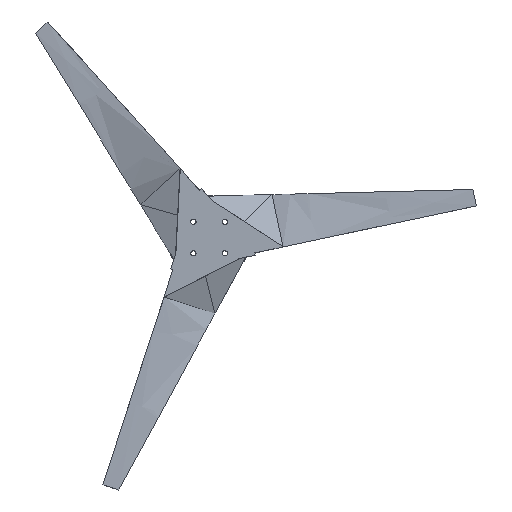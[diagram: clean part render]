
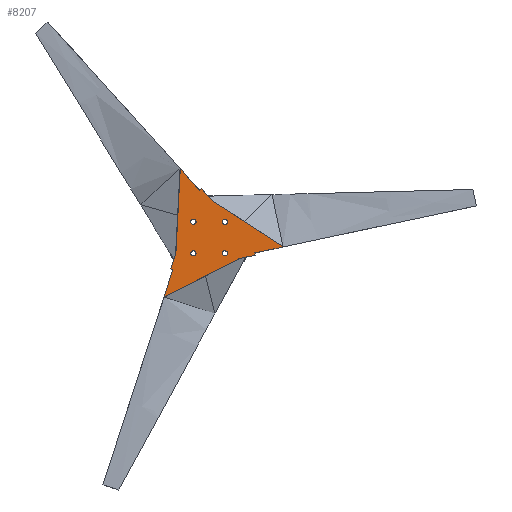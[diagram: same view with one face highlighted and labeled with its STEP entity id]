
A CAD part, top view. The second image highlights one B-rep face of the part: STEP entity #8207.
In plain terms, the highlighted planar face has unit normal (0, 0, 1).
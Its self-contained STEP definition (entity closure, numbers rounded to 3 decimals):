
#8012=CARTESIAN_POINT('Vertex',(13.422,-47.153,0.)) ;
#8026=CARTESIAN_POINT('Vertex',(25.422,-47.153,0.)) ;
#8029=CARTESIAN_POINT('Axis2P3D Location',(19.422,-47.153,0.)) ;
#8041=CARTESIAN_POINT('Axis2P3D Location',(0.,0.,0.)) ;
#8046=CARTESIAN_POINT('Line Origine',(63.255,-74.06,0.)) ;
#8050=CARTESIAN_POINT('Vertex',(81.264,-77.482,0.)) ;
#8052=CARTESIAN_POINT('Vertex',(45.247,-70.638,0.)) ;
#8055=CARTESIAN_POINT('Line Origine',(81.731,-75.026,0.)) ;
#8059=CARTESIAN_POINT('Vertex',(82.198,-72.57,0.)) ;
#8062=CARTESIAN_POINT('Line Origine',(114.617,-78.731,0.)) ;
#8066=CARTESIAN_POINT('Vertex',(147.037,-84.892,0.)) ;
#8069=CARTESIAN_POINT('Line Origine',(92.794,-5.194,0.)) ;
#8073=CARTESIAN_POINT('Vertex',(38.551,74.503,0.)) ;
#8076=CARTESIAN_POINT('Line Origine',(32.51,91.811,0.)) ;
#8080=CARTESIAN_POINT('Vertex',(26.469,109.118,0.)) ;
#8083=CARTESIAN_POINT('Line Origine',(24.109,108.294,0.)) ;
#8087=CARTESIAN_POINT('Vertex',(21.749,107.47,0.)) ;
#8090=CARTESIAN_POINT('Line Origine',(10.874,138.627,0.)) ;
#8094=CARTESIAN_POINT('Vertex',(0.,169.784,0.)) ;
#8097=CARTESIAN_POINT('Line Origine',(-41.899,82.959,0.)) ;
#8101=CARTESIAN_POINT('Vertex',(-83.797,-3.866,0.)) ;
#8104=CARTESIAN_POINT('Line Origine',(-95.765,-17.751,0.)) ;
#8108=CARTESIAN_POINT('Vertex',(-107.734,-31.636,0.)) ;
#8111=CARTESIAN_POINT('Line Origine',(-105.84,-33.268,0.)) ;
#8115=CARTESIAN_POINT('Vertex',(-103.946,-34.9,0.)) ;
#8118=CARTESIAN_POINT('Line Origine',(-125.492,-59.896,0.)) ;
#8122=CARTESIAN_POINT('Vertex',(-147.037,-84.892,0.)) ;
#8125=CARTESIAN_POINT('Line Origine',(-50.895,-77.765,0.)) ;
#8144=CARTESIAN_POINT('Axis2P3D Location',(19.422,-47.153,0.)) ;
#8153=CARTESIAN_POINT('Axis2P3D Location',(47.277,19.241,0.)) ;
#8157=CARTESIAN_POINT('Vertex',(41.277,19.241,0.)) ;
#8159=CARTESIAN_POINT('Vertex',(53.277,19.241,0.)) ;
#8162=CARTESIAN_POINT('Axis2P3D Location',(47.277,19.241,0.)) ;
#8171=CARTESIAN_POINT('Axis2P3D Location',(-19.117,47.095,0.)) ;
#8175=CARTESIAN_POINT('Vertex',(-25.117,47.095,0.)) ;
#8177=CARTESIAN_POINT('Vertex',(-13.117,47.095,0.)) ;
#8180=CARTESIAN_POINT('Axis2P3D Location',(-19.117,47.095,0.)) ;
#8189=CARTESIAN_POINT('Axis2P3D Location',(-46.972,-19.298,0.)) ;
#8193=CARTESIAN_POINT('Vertex',(-52.972,-19.298,0.)) ;
#8195=CARTESIAN_POINT('Vertex',(-40.972,-19.298,0.)) ;
#8198=CARTESIAN_POINT('Axis2P3D Location',(-46.972,-19.298,0.)) ;
#8048=VECTOR('Line Direction',#8047,1.) ;
#8057=VECTOR('Line Direction',#8056,1.) ;
#8064=VECTOR('Line Direction',#8063,1.) ;
#8071=VECTOR('Line Direction',#8070,1.) ;
#8078=VECTOR('Line Direction',#8077,1.) ;
#8085=VECTOR('Line Direction',#8084,1.) ;
#8092=VECTOR('Line Direction',#8091,1.) ;
#8099=VECTOR('Line Direction',#8098,1.) ;
#8106=VECTOR('Line Direction',#8105,1.) ;
#8113=VECTOR('Line Direction',#8112,1.) ;
#8120=VECTOR('Line Direction',#8119,1.) ;
#8127=VECTOR('Line Direction',#8126,1.) ;
#8030=DIRECTION('Axis2P3D Direction',(0.,0.,-1.)) ;
#8042=DIRECTION('Axis2P3D Direction',(0.,-0.,1.)) ;
#8043=DIRECTION('Axis2P3D XDirection',(0.,1.,0.)) ;
#8047=DIRECTION('Vector Direction',(-0.982,0.187,0.)) ;
#8056=DIRECTION('Vector Direction',(-0.187,-0.982,0.)) ;
#8063=DIRECTION('Vector Direction',(-0.982,0.187,0.)) ;
#8070=DIRECTION('Vector Direction',(0.563,-0.827,0.)) ;
#8077=DIRECTION('Vector Direction',(0.33,-0.944,0.)) ;
#8084=DIRECTION('Vector Direction',(0.944,0.33,0.)) ;
#8091=DIRECTION('Vector Direction',(0.33,-0.944,0.)) ;
#8098=DIRECTION('Vector Direction',(0.435,0.901,0.)) ;
#8105=DIRECTION('Vector Direction',(-0.653,-0.757,0.)) ;
#8112=DIRECTION('Vector Direction',(0.757,-0.653,0.)) ;
#8119=DIRECTION('Vector Direction',(0.653,0.757,0.)) ;
#8126=DIRECTION('Vector Direction',(-0.997,-0.074,0.)) ;
#8145=DIRECTION('Axis2P3D Direction',(0.,-0.,1.)) ;
#8154=DIRECTION('Axis2P3D Direction',(0.,-0.,1.)) ;
#8163=DIRECTION('Axis2P3D Direction',(0.,-0.,1.)) ;
#8172=DIRECTION('Axis2P3D Direction',(0.,-0.,1.)) ;
#8181=DIRECTION('Axis2P3D Direction',(0.,-0.,1.)) ;
#8190=DIRECTION('Axis2P3D Direction',(0.,-0.,1.)) ;
#8199=DIRECTION('Axis2P3D Direction',(0.,-0.,1.)) ;
#8031=AXIS2_PLACEMENT_3D('Circle Axis2P3D',#8029,#8030,$) ;
#8044=AXIS2_PLACEMENT_3D('Plane Axis2P3D',#8041,#8042,#8043) ;
#8146=AXIS2_PLACEMENT_3D('Circle Axis2P3D',#8144,#8145,$) ;
#8155=AXIS2_PLACEMENT_3D('Circle Axis2P3D',#8153,#8154,$) ;
#8164=AXIS2_PLACEMENT_3D('Circle Axis2P3D',#8162,#8163,$) ;
#8173=AXIS2_PLACEMENT_3D('Circle Axis2P3D',#8171,#8172,$) ;
#8182=AXIS2_PLACEMENT_3D('Circle Axis2P3D',#8180,#8181,$) ;
#8191=AXIS2_PLACEMENT_3D('Circle Axis2P3D',#8189,#8190,$) ;
#8200=AXIS2_PLACEMENT_3D('Circle Axis2P3D',#8198,#8199,$) ;
#8049=LINE('Line',#8046,#8048) ;
#8058=LINE('Line',#8055,#8057) ;
#8065=LINE('Line',#8062,#8064) ;
#8072=LINE('Line',#8069,#8071) ;
#8079=LINE('Line',#8076,#8078) ;
#8086=LINE('Line',#8083,#8085) ;
#8093=LINE('Line',#8090,#8092) ;
#8100=LINE('Line',#8097,#8099) ;
#8107=LINE('Line',#8104,#8106) ;
#8114=LINE('Line',#8111,#8113) ;
#8121=LINE('Line',#8118,#8120) ;
#8128=LINE('Line',#8125,#8127) ;
#8032=CIRCLE('generated circle',#8031,6.) ;
#8147=CIRCLE('generated circle',#8146,6.) ;
#8156=CIRCLE('generated circle',#8155,6.) ;
#8165=CIRCLE('generated circle',#8164,6.) ;
#8174=CIRCLE('generated circle',#8173,6.) ;
#8183=CIRCLE('generated circle',#8182,6.) ;
#8192=CIRCLE('generated circle',#8191,6.) ;
#8201=CIRCLE('generated circle',#8200,6.) ;
#8045=PLANE('',#8044) ;
#8152=FACE_BOUND('',#8149,.T.) ;
#8170=FACE_BOUND('',#8167,.T.) ;
#8188=FACE_BOUND('',#8185,.T.) ;
#8206=FACE_BOUND('',#8203,.T.) ;
#8033=EDGE_CURVE('',#8027,#8013,#8032,.F.) ;
#8054=EDGE_CURVE('',#8051,#8053,#8049,.T.) ;
#8061=EDGE_CURVE('',#8060,#8051,#8058,.T.) ;
#8068=EDGE_CURVE('',#8067,#8060,#8065,.T.) ;
#8075=EDGE_CURVE('',#8074,#8067,#8072,.T.) ;
#8082=EDGE_CURVE('',#8081,#8074,#8079,.T.) ;
#8089=EDGE_CURVE('',#8088,#8081,#8086,.T.) ;
#8096=EDGE_CURVE('',#8095,#8088,#8093,.T.) ;
#8103=EDGE_CURVE('',#8102,#8095,#8100,.T.) ;
#8110=EDGE_CURVE('',#8102,#8109,#8107,.T.) ;
#8117=EDGE_CURVE('',#8109,#8116,#8114,.T.) ;
#8124=EDGE_CURVE('',#8123,#8116,#8121,.T.) ;
#8129=EDGE_CURVE('',#8053,#8123,#8128,.T.) ;
#8148=EDGE_CURVE('',#8013,#8027,#8147,.T.) ;
#8161=EDGE_CURVE('',#8158,#8160,#8156,.T.) ;
#8166=EDGE_CURVE('',#8160,#8158,#8165,.T.) ;
#8179=EDGE_CURVE('',#8176,#8178,#8174,.T.) ;
#8184=EDGE_CURVE('',#8178,#8176,#8183,.T.) ;
#8197=EDGE_CURVE('',#8194,#8196,#8192,.T.) ;
#8202=EDGE_CURVE('',#8196,#8194,#8201,.T.) ;
#8130=EDGE_LOOP('',(#8131,#8132,#8133,#8134,#8135,#8136,#8137,#8138,#8139,#8140,#8141,#8142)) ;
#8149=EDGE_LOOP('',(#8150,#8151)) ;
#8167=EDGE_LOOP('',(#8168,#8169)) ;
#8185=EDGE_LOOP('',(#8186,#8187)) ;
#8203=EDGE_LOOP('',(#8204,#8205)) ;
#8131=ORIENTED_EDGE('',*,*,#8054,.F.) ;
#8132=ORIENTED_EDGE('',*,*,#8061,.F.) ;
#8133=ORIENTED_EDGE('',*,*,#8068,.F.) ;
#8134=ORIENTED_EDGE('',*,*,#8075,.F.) ;
#8135=ORIENTED_EDGE('',*,*,#8082,.F.) ;
#8136=ORIENTED_EDGE('',*,*,#8089,.F.) ;
#8137=ORIENTED_EDGE('',*,*,#8096,.F.) ;
#8138=ORIENTED_EDGE('',*,*,#8103,.F.) ;
#8139=ORIENTED_EDGE('',*,*,#8110,.T.) ;
#8140=ORIENTED_EDGE('',*,*,#8117,.T.) ;
#8141=ORIENTED_EDGE('',*,*,#8124,.F.) ;
#8142=ORIENTED_EDGE('',*,*,#8129,.F.) ;
#8150=ORIENTED_EDGE('',*,*,#8148,.F.) ;
#8151=ORIENTED_EDGE('',*,*,#8033,.F.) ;
#8168=ORIENTED_EDGE('',*,*,#8161,.F.) ;
#8169=ORIENTED_EDGE('',*,*,#8166,.F.) ;
#8186=ORIENTED_EDGE('',*,*,#8179,.F.) ;
#8187=ORIENTED_EDGE('',*,*,#8184,.F.) ;
#8204=ORIENTED_EDGE('',*,*,#8197,.F.) ;
#8205=ORIENTED_EDGE('',*,*,#8202,.F.) ;
#8013=VERTEX_POINT('',#8012) ;
#8027=VERTEX_POINT('',#8026) ;
#8051=VERTEX_POINT('',#8050) ;
#8053=VERTEX_POINT('',#8052) ;
#8060=VERTEX_POINT('',#8059) ;
#8067=VERTEX_POINT('',#8066) ;
#8074=VERTEX_POINT('',#8073) ;
#8081=VERTEX_POINT('',#8080) ;
#8088=VERTEX_POINT('',#8087) ;
#8095=VERTEX_POINT('',#8094) ;
#8102=VERTEX_POINT('',#8101) ;
#8109=VERTEX_POINT('',#8108) ;
#8116=VERTEX_POINT('',#8115) ;
#8123=VERTEX_POINT('',#8122) ;
#8158=VERTEX_POINT('',#8157) ;
#8160=VERTEX_POINT('',#8159) ;
#8176=VERTEX_POINT('',#8175) ;
#8178=VERTEX_POINT('',#8177) ;
#8194=VERTEX_POINT('',#8193) ;
#8196=VERTEX_POINT('',#8195) ;
#8207=ADVANCED_FACE('PartBody',(#8143,#8152,#8170,#8188,#8206),#8045,.T.) ;
#8143=FACE_OUTER_BOUND('',#8130,.T.) ;
